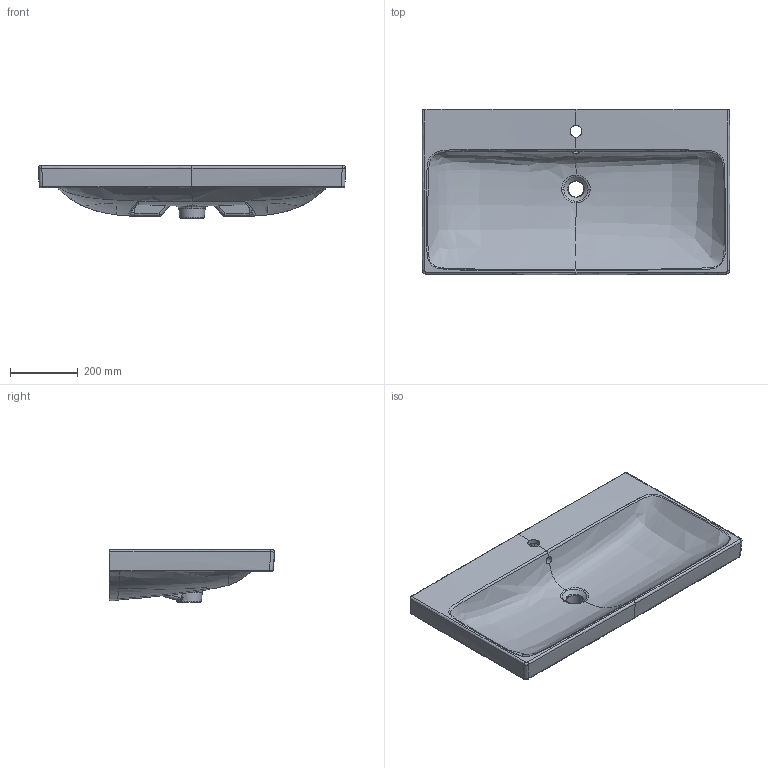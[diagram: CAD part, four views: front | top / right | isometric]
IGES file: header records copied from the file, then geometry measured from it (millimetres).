
Global section: file name: 510.009.00.2; native system: Autodesk Inventor 2023; preprocessor: unknown; author: JANAN; date: 20250107.144741; units: millimetre
Bounding box: 905.76 x 487.69 x 155.95 mm (x, y, z)
Volume: 18472541 mm3; surface area: 1313114.8 mm2
Topology: 1 solids, 1 shells, 269 faces, 802 edges, 529 vertices
Faces by surface type: bspline 269
